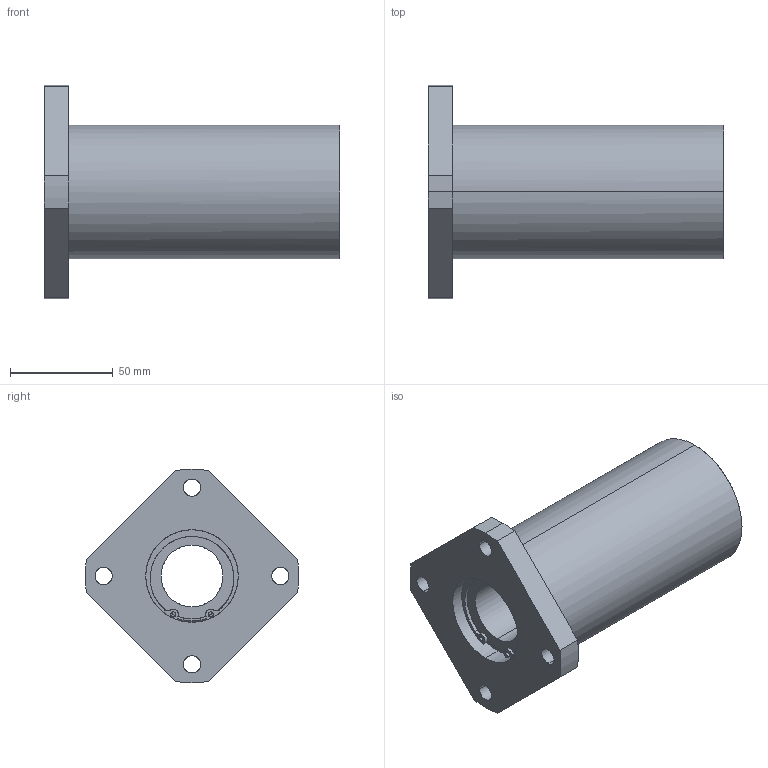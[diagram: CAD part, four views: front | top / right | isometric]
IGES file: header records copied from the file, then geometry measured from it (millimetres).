
Global section: file name: No Iges File Name specified; native system: AutoDesk Inventor R10; preprocessor: AutoDesk Inventor Iges Exporter R10; author: No Author specified; organization: No Organization specified; date: 20101214.135852; units: millimetre
Bounding box: 144 x 103.86 x 104 mm (x, y, z)
Surface area: 64772.2 mm2 (no closed solid volume)
Topology: 0 solids, 0 shells, 119 faces, 884 edges, 884 vertices
Faces by surface type: bspline 119
